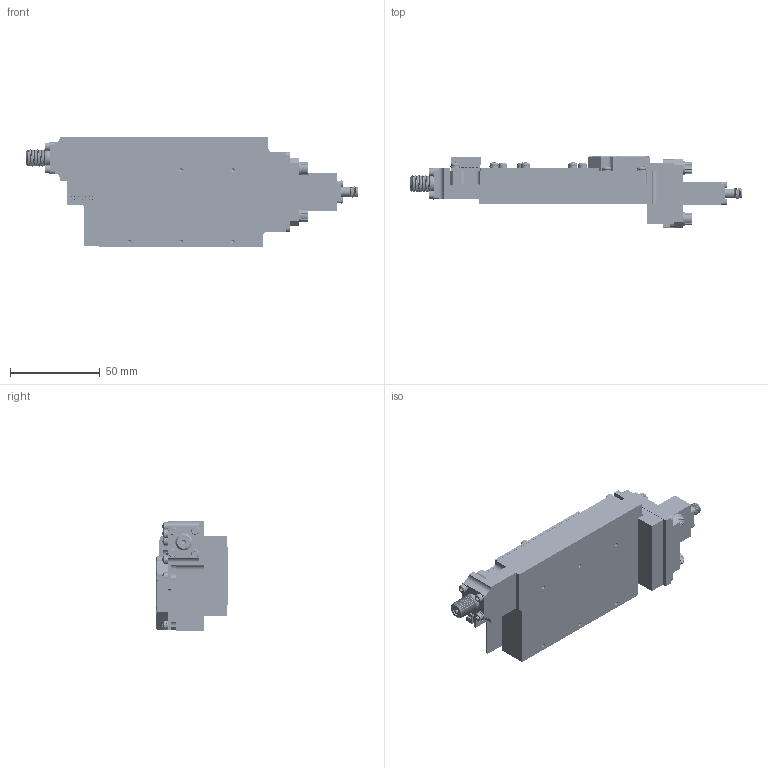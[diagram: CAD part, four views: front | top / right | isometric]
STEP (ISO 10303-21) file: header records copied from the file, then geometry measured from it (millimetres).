
FILE_DESCRIPTION (( 'STEP AP214' ), '1' );
FILE_NAME ('AKGKU12-FILLED_ASSEMBLY-2024-07-19.STEP', '2025-02-04T21:24:30', ( '' ), ( '' ), 'SwSTEP 2.0', 'SolidWorks 2022', '' );
FILE_SCHEMA (( 'AUTOMOTIVE_DESIGN' ));
Length unit declared in the file: millimetre
Products named in the file (27): 800-0047-00; O-RING_2.5x27; Coax_Adapter_WR75_Pasternack-PE9847; Washer_Flat_M2.5_98689A111_98689A111; Screw_M3x8_92290A113_316_SS_SHCS_92290A113; F-Type_RCPT_Jack-222146; Washer_Split_Lock_M3; 400-0131-00; Screw_M4-SHMS_90751A116; 400-0011-00; 700-0002-00; SCREW_M2.5X6-SHMS_92290A056; Washer_Split_Lock_M2.5; 800-0038-00; SCREW_DIN7985_M2.5_x6mm_long; SCREW_DIN7985_M2.5_x14mm_long; Washer_Split_Lock_M4; 300-0043-00; 878311420; Screw_M2.5x12_92010A022_FHMS_92010A022; 400-0130-01; Dowel_Pin_DIA-2.0mm; AKGKU12-FILLED_ASSEMBLY-2024-07-19; 300-0046-00; Screw_M2.5x20_92010A026_FHMS_92010A026; 300-0047-00; 400-0122-00
Assembly tree (73 placements, depth 3):
  AKGKU12-FILLED_ASSEMBLY-2024-07-19
    400-0130-01
    400-0122-00
    400-0131-00
    800-0047-00
      300-0047-00
    800-0038-00
      300-0043-00
      878311420
    700-0002-00
      400-0011-00
      300-0046-00
      O-RING_2.5x27  x2
    F-Type_RCPT_Jack-222146
    Coax_Adapter_WR75_Pasternack-PE9847
    Washer_Flat_M2.5_98689A111_98689A111  x7
    Washer_Split_Lock_M2.5  x13
    Washer_Split_Lock_M3  x4
    SCREW_DIN7985_M2.5_x6mm_long
    SCREW_DIN7985_M2.5_x14mm_long  x8
    Screw_M2.5x12_92010A022_FHMS_92010A022  x4
    Screw_M2.5x20_92010A026_FHMS_92010A026  x4
    SCREW_M2.5X6-SHMS_92290A056  x4
    Screw_M3x8_92290A113_316_SS_SHCS_92290A113  x4
    Dowel_Pin_DIA-2.0mm
    Washer_Split_Lock_M4  x4
    Screw_M4-SHMS_90751A116  x4
Bounding box: 185.45 x 39.75 x 61 mm (x, y, z)
Volume: 161202.6 mm3; surface area: 87965.8 mm2
Topology: 77 solids, 77 shells, 4593 faces, 12540 edges, 8145 vertices
Faces by surface type: cylinder 2150, plane 1825, cone 460, bspline 90, torus 50, sphere 18
Entity records: 92877 total; most frequent: CARTESIAN_POINT 37922, ORIENTED_EDGE 11642, DIRECTION 9979, EDGE_CURVE 5821, VERTEX_POINT 3786, AXIS2_PLACEMENT_3D 3478, VECTOR 3023, LINE 3023
